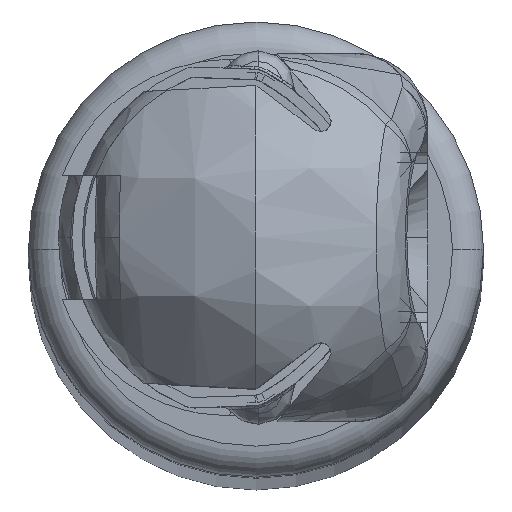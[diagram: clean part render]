
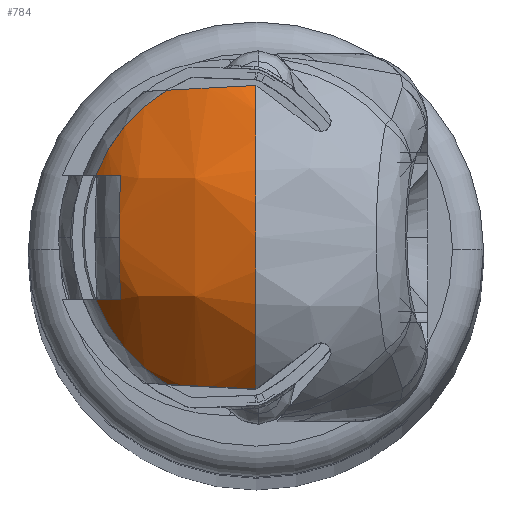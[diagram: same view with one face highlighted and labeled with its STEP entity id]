
A CAD part, top view. The second image highlights one B-rep face of the part: STEP entity #784.
In plain terms, the highlighted free-form (B-spline) face has degree [3, 3] with [4, 4] control points.
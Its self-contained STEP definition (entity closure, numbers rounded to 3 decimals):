
#289 = VERTEX_POINT ( 'NONE', #5071 ) ;
#293 = VERTEX_POINT ( 'NONE', #5069 ) ;
#308 = VERTEX_POINT ( 'NONE', #5053 ) ;
#309 = VERTEX_POINT ( 'NONE', #5052 ) ;
#570 = VERTEX_POINT ( 'NONE', #4928 ) ;
#579 = VERTEX_POINT ( 'NONE', #5043 ) ;
#581 = VERTEX_POINT ( 'NONE', #4919 ) ;
#601 = VERTEX_POINT ( 'NONE', #5255 ) ;
#603 = VERTEX_POINT ( 'NONE', #5393 ) ;
#784 = ADVANCED_FACE ( 'NONE', ( #7965 ), #8360, .T. ) ;
#1744 = EDGE_CURVE ( 'NONE', #289, #293, #9048, .T. ) ;
#2367 = EDGE_CURVE ( 'NONE', #308, #309, #8938, .T. ) ;
#4801 = EDGE_CURVE ( 'NONE', #581, #579, #18940, .T. ) ;
#4873 = EDGE_CURVE ( 'NONE', #579, #570, #14053, .T. ) ;
#4884 = EDGE_CURVE ( 'NONE', #570, #308, #14028, .T. ) ;
#4919 = CARTESIAN_POINT ( 'NONE',  ( -7.066, -7.11, 4.298 ) ) ;
#4928 = CARTESIAN_POINT ( 'NONE',  ( -8.439, -3., 6.546 ) ) ;
#5043 = CARTESIAN_POINT ( 'NONE',  ( -7.066, -3., 7.747 ) ) ;
#5052 = CARTESIAN_POINT ( 'NONE',  ( -8.439, 3., 6.546 ) ) ;
#5053 = CARTESIAN_POINT ( 'NONE',  ( -9.008, 0., 6.606 ) ) ;
#5069 = CARTESIAN_POINT ( 'NONE',  ( -8.297, 7.335, 0. ) ) ;
#5071 = CARTESIAN_POINT ( 'NONE',  ( -8.297, -7.335, 0. ) ) ;
#5255 = CARTESIAN_POINT ( 'NONE',  ( -7.066, 3., 7.747 ) ) ;
#5393 = CARTESIAN_POINT ( 'NONE',  ( -7.066, 7.11, 4.298 ) ) ;
#5864 = ORIENTED_EDGE ( 'NONE', *, *, #1744, .F. ) ;
#5872 = ORIENTED_EDGE ( 'NONE', *, *, #7562, .F. ) ;
#5925 = ORIENTED_EDGE ( 'NONE', *, *, #7554, .F. ) ;
#5943 = ORIENTED_EDGE ( 'NONE', *, *, #2367, .T. ) ;
#6013 = ORIENTED_EDGE ( 'NONE', *, *, #4801, .T. ) ;
#6045 = ORIENTED_EDGE ( 'NONE', *, *, #7566, .F. ) ;
#6072 = ORIENTED_EDGE ( 'NONE', *, *, #7567, .F. ) ;
#6090 = ORIENTED_EDGE ( 'NONE', *, *, #4884, .T. ) ;
#6092 = EDGE_LOOP ( 'NONE', ( #5864, #6045, #6013, #6273, #6090, #5943, #6072, #5872, #5925 ) ) ;
#6273 = ORIENTED_EDGE ( 'NONE', *, *, #4873, .T. ) ;
#6661 = CARTESIAN_POINT ( 'NONE',  ( -1.5, 0., 0. ) ) ;
#6662 = DIRECTION ( 'NONE',  ( 0., -1., 0. ) ) ;
#6663 = DIRECTION ( 'NONE',  ( 0., 0., -1. ) ) ;
#7554 = EDGE_CURVE ( 'NONE', #293, #603, #8185, .T. ) ;
#7562 = EDGE_CURVE ( 'NONE', #603, #601, #13992, .T. ) ;
#7566 = EDGE_CURVE ( 'NONE', #581, #289, #8188, .T. ) ;
#7567 = EDGE_CURVE ( 'NONE', #601, #309, #14003, .T. ) ;
#7965 = FACE_OUTER_BOUND ( 'NONE', #6092, .T. ) ;
#8185 = B_SPLINE_CURVE_WITH_KNOTS ( 'NONE', 3,
 ( #11108, #11109, #11110, #11111, #11112, #11113 ),
 .UNSPECIFIED., .F., .F.,
 ( 4, 2, 4 ),
 ( 0., 0.002, 0.005 ),
 .UNSPECIFIED. ) ;
#8188 = B_SPLINE_CURVE_WITH_KNOTS ( 'NONE', 3,
 ( #11153, #11154, #11155, #11156, #11157, #11158 ),
 .UNSPECIFIED., .F., .F.,
 ( 4, 2, 4 ),
 ( 0., 0.002, 0.005 ),
 .UNSPECIFIED. ) ;
#8360 =( BOUNDED_SURFACE ( )  B_SPLINE_SURFACE ( 3, 3, ( 
 ( #18526, #18671, #18666, #18660 ),
 ( #18663, #18680, #18678, #18689 ),
 ( #18683, #18693, #18697, #18682 ),
 ( #18681, #18691, #18692, #18684 ) ),
 .UNSPECIFIED., .F., .F., .F. ) 
 B_SPLINE_SURFACE_WITH_KNOTS ( ( 4, 4 ),
 ( 4, 4 ),
 ( 0., 1. ),
 ( 0., 1. ),
 .UNSPECIFIED. ) 
 GEOMETRIC_REPRESENTATION_ITEM ( )  RATIONAL_B_SPLINE_SURFACE ( (
 ( 1., 0.926, 0.926, 1.),
 ( 0.782, 0.724, 0.724, 0.782),
 ( 0.782, 0.724, 0.724, 0.782),
 ( 1., 0.926, 0.926, 1.) ) ) 
 REPRESENTATION_ITEM ( '' )  SURFACE ( )  );
#8938 = CIRCLE ( 'NONE', #8993, 8.157 ) ;
#8993 = AXIS2_PLACEMENT_3D ( 'NONE', #9863, #9864, #9865 ) ;
#9043 = AXIS2_PLACEMENT_3D ( 'NONE', #6661, #6663, #6662 ) ;
#9048 = CIRCLE ( 'NONE', #9043, 10. ) ;
#9863 = CARTESIAN_POINT ( 'NONE',  ( -0.895, 0., 5.753 ) ) ;
#9864 = DIRECTION ( 'NONE',  ( -0.105, 0., -0.995 ) ) ;
#9865 = DIRECTION ( 'NONE',  ( -0.995, 0., 0.105 ) ) ;
#10456 = CARTESIAN_POINT ( 'NONE',  ( -7.066, 0., 0. ) ) ;
#10457 = DIRECTION ( 'NONE',  ( -1., 0., 0. ) ) ;
#10458 = DIRECTION ( 'NONE',  ( 0., 0., -1. ) ) ;
#10773 = CARTESIAN_POINT ( 'NONE',  ( -1.5, -3., 0. ) ) ;
#10774 = DIRECTION ( 'NONE',  ( 0., -1., 0. ) ) ;
#10775 = DIRECTION ( 'NONE',  ( 1., 0., 0. ) ) ;
#10824 = CARTESIAN_POINT ( 'NONE',  ( -0.895, 0., 5.753 ) ) ;
#10825 = DIRECTION ( 'NONE',  ( -0.105, 0., -0.995 ) ) ;
#10826 = DIRECTION ( 'NONE',  ( -0.995, 0., 0.105 ) ) ;
#11108 = CARTESIAN_POINT ( 'NONE',  ( -8.297, 7.335, 0. ) ) ;
#11109 = CARTESIAN_POINT ( 'NONE',  ( -8.34, 7.295, 0.765 ) ) ;
#11110 = CARTESIAN_POINT ( 'NONE',  ( -8.256, 7.256, 1.516 ) ) ;
#11111 = CARTESIAN_POINT ( 'NONE',  ( -7.835, 7.178, 2.989 ) ) ;
#11112 = CARTESIAN_POINT ( 'NONE',  ( -7.508, 7.143, 3.671 ) ) ;
#11113 = CARTESIAN_POINT ( 'NONE',  ( -7.066, 7.11, 4.298 ) ) ;
#11135 = CARTESIAN_POINT ( 'NONE',  ( -7.066, 0., 0. ) ) ;
#11136 = DIRECTION ( 'NONE',  ( 1., 0., 0. ) ) ;
#11137 = DIRECTION ( 'NONE',  ( 0., 0., -1. ) ) ;
#11153 = CARTESIAN_POINT ( 'NONE',  ( -7.066, -7.11, 4.298 ) ) ;
#11154 = CARTESIAN_POINT ( 'NONE',  ( -7.508, -7.143, 3.671 ) ) ;
#11155 = CARTESIAN_POINT ( 'NONE',  ( -7.834, -7.178, 2.99 ) ) ;
#11156 = CARTESIAN_POINT ( 'NONE',  ( -8.256, -7.256, 1.517 ) ) ;
#11157 = CARTESIAN_POINT ( 'NONE',  ( -8.34, -7.295, 0.765 ) ) ;
#11158 = CARTESIAN_POINT ( 'NONE',  ( -8.297, -7.335, 0. ) ) ;
#11159 = CARTESIAN_POINT ( 'NONE',  ( -1.5, 3., 0. ) ) ;
#11160 = DIRECTION ( 'NONE',  ( 0., -1., 0. ) ) ;
#11161 = DIRECTION ( 'NONE',  ( 1., 0., 0. ) ) ;
#13977 = AXIS2_PLACEMENT_3D ( 'NONE', #11159, #11160, #11161 ) ;
#13988 = AXIS2_PLACEMENT_3D ( 'NONE', #11135, #11136, #11137 ) ;
#13992 = CIRCLE ( 'NONE', #13988, 8.308 ) ;
#14003 = CIRCLE ( 'NONE', #13977, 9.539 ) ;
#14021 = AXIS2_PLACEMENT_3D ( 'NONE', #10824, #10825, #10826 ) ;
#14028 = CIRCLE ( 'NONE', #14021, 8.157 ) ;
#14033 = AXIS2_PLACEMENT_3D ( 'NONE', #10773, #10774, #10775 ) ;
#14053 = CIRCLE ( 'NONE', #14033, 9.539 ) ;
#18526 = CARTESIAN_POINT ( 'NONE',  ( -5.392, -7.402, 5.483 ) ) ;
#18660 = CARTESIAN_POINT ( 'NONE',  ( -8.224, -7.402, 0. ) ) ;
#18663 = CARTESIAN_POINT ( 'NONE',  ( -8.097, -3.157, 9.293 ) ) ;
#18666 = CARTESIAN_POINT ( 'NONE',  ( -8.224, -7.402, 2.222 ) ) ;
#18671 = CARTESIAN_POINT ( 'NONE',  ( -7.204, -7.402, 4.197 ) ) ;
#18678 = CARTESIAN_POINT ( 'NONE',  ( -12.897, -3.157, 3.767 ) ) ;
#18680 = CARTESIAN_POINT ( 'NONE',  ( -11.169, -3.157, 7.113 ) ) ;
#18681 = CARTESIAN_POINT ( 'NONE',  ( -5.392, 7.402, 5.483 ) ) ;
#18682 = CARTESIAN_POINT ( 'NONE',  ( -12.897, 3.157, 0. ) ) ;
#18683 = CARTESIAN_POINT ( 'NONE',  ( -8.097, 3.157, 9.293 ) ) ;
#18684 = CARTESIAN_POINT ( 'NONE',  ( -8.224, 7.402, 0. ) ) ;
#18689 = CARTESIAN_POINT ( 'NONE',  ( -12.897, -3.157, 0. ) ) ;
#18691 = CARTESIAN_POINT ( 'NONE',  ( -7.204, 7.402, 4.197 ) ) ;
#18692 = CARTESIAN_POINT ( 'NONE',  ( -8.224, 7.402, 2.222 ) ) ;
#18693 = CARTESIAN_POINT ( 'NONE',  ( -11.169, 3.157, 7.113 ) ) ;
#18697 = CARTESIAN_POINT ( 'NONE',  ( -12.897, 3.157, 3.767 ) ) ;
#18940 = CIRCLE ( 'NONE', #18954, 8.308 ) ;
#18954 = AXIS2_PLACEMENT_3D ( 'NONE', #10456, #10457, #10458 ) ;
